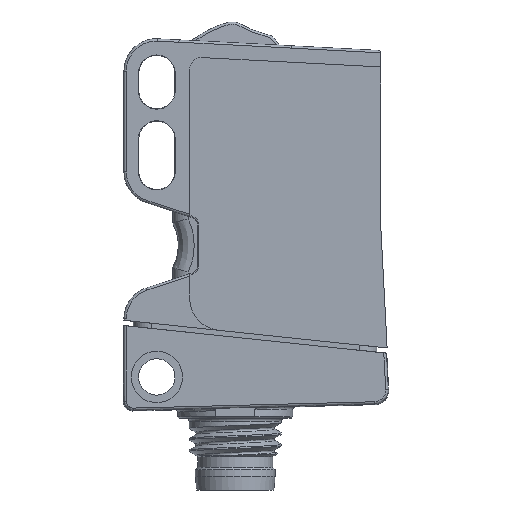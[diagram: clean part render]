
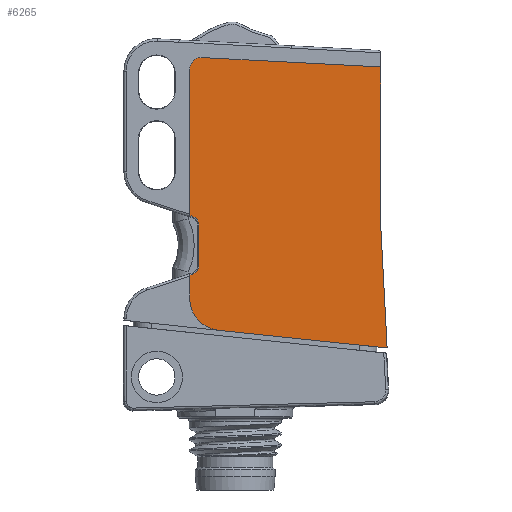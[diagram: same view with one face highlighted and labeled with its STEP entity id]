
A CAD part, front view. The second image highlights one B-rep face of the part: STEP entity #6265.
In plain terms, the highlighted planar face has unit normal (0, -1, 0).
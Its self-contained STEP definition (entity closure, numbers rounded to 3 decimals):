
#656=LINE('',#10432,#1016);
#657=LINE('',#10440,#1017);
#658=LINE('',#10448,#1018);
#659=LINE('',#10450,#1019);
#662=LINE('',#10458,#1022);
#670=LINE('',#10492,#1030);
#683=LINE('',#10538,#1043);
#685=LINE('',#10546,#1045);
#686=LINE('',#10548,#1046);
#1016=VECTOR('',#7796,1000.);
#1017=VECTOR('',#7807,1000.);
#1018=VECTOR('',#7818,1000.);
#1019=VECTOR('',#7821,1000.);
#1022=VECTOR('',#7830,1000.);
#1030=VECTOR('',#7872,1000.);
#1043=VECTOR('',#7921,1000.);
#1045=VECTOR('',#7931,1000.);
#1046=VECTOR('',#7932,1000.);
#1183=PLANE('',#6714);
#2366=ORIENTED_EDGE('',*,*,#3054,.F.);
#2367=ORIENTED_EDGE('',*,*,#3037,.T.);
#2368=ORIENTED_EDGE('',*,*,#3036,.T.);
#2369=ORIENTED_EDGE('',*,*,#3033,.T.);
#2370=ORIENTED_EDGE('',*,*,#3032,.T.);
#2371=ORIENTED_EDGE('',*,*,#3030,.T.);
#2372=ORIENTED_EDGE('',*,*,#3028,.T.);
#2373=ORIENTED_EDGE('',*,*,#3026,.T.);
#2374=ORIENTED_EDGE('',*,*,#3024,.T.);
#2375=ORIENTED_EDGE('',*,*,#3077,.T.);
#2376=ORIENTED_EDGE('',*,*,#3080,.T.);
#2377=ORIENTED_EDGE('',*,*,#3081,.T.);
#2378=ORIENTED_EDGE('',*,*,#3082,.T.);
#3024=EDGE_CURVE('',#3479,#3480,#656,.T.);
#3026=EDGE_CURVE('',#3481,#3479,#3620,.F.);
#3028=EDGE_CURVE('',#3482,#3481,#657,.T.);
#3030=EDGE_CURVE('',#3483,#3482,#3623,.F.);
#3032=EDGE_CURVE('',#3484,#3483,#658,.T.);
#3033=EDGE_CURVE('',#3485,#3484,#659,.T.);
#3036=EDGE_CURVE('',#3486,#3485,#3624,.T.);
#3037=EDGE_CURVE('',#3487,#3486,#662,.T.);
#3054=EDGE_CURVE('',#3487,#3496,#670,.T.);
#3077=EDGE_CURVE('',#3480,#3510,#683,.T.);
#3080=EDGE_CURVE('',#3510,#3512,#3641,.T.);
#3081=EDGE_CURVE('',#3512,#3513,#685,.T.);
#3082=EDGE_CURVE('',#3513,#3496,#686,.T.);
#3479=VERTEX_POINT('',#10429);
#3480=VERTEX_POINT('',#10431);
#3481=VERTEX_POINT('',#10435);
#3482=VERTEX_POINT('',#10439);
#3483=VERTEX_POINT('',#10443);
#3484=VERTEX_POINT('',#10447);
#3485=VERTEX_POINT('',#10451);
#3486=VERTEX_POINT('',#10455);
#3487=VERTEX_POINT('',#10459);
#3496=VERTEX_POINT('',#10493);
#3510=VERTEX_POINT('',#10537);
#3512=VERTEX_POINT('',#10543);
#3513=VERTEX_POINT('',#10547);
#3620=CIRCLE('',#6664,0.8);
#3623=CIRCLE('',#6669,0.8);
#3624=CIRCLE('',#6674,1.);
#3641=CIRCLE('',#6713,2.8);
#3914=EDGE_LOOP('',(#2366,#2367,#2368,#2369,#2370,#2371,#2372,#2373,#2374,
#2375,#2376,#2377,#2378));
#4203=FACE_BOUND('',#3914,.T.);
#6265=ADVANCED_FACE('',(#4203),#1183,.T.);
#6664=AXIS2_PLACEMENT_3D('',#10436,#7801,#7802);
#6669=AXIS2_PLACEMENT_3D('',#10444,#7812,#7813);
#6674=AXIS2_PLACEMENT_3D('',#10456,#7826,#7827);
#6713=AXIS2_PLACEMENT_3D('',#10544,#7927,#7928);
#6714=AXIS2_PLACEMENT_3D('',#10545,#7929,#7930);
#7796=DIRECTION('',(-0.951,0.,-0.309));
#7801=DIRECTION('',(0.,-1.,0.));
#7802=DIRECTION('',(0.,0.,-1.));
#7807=DIRECTION('',(0.,0.,-1.));
#7812=DIRECTION('',(0.,-1.,0.));
#7813=DIRECTION('',(0.,0.,-1.));
#7818=DIRECTION('',(0.951,0.,-0.309));
#7821=DIRECTION('',(0.,0.,-1.));
#7826=DIRECTION('',(0.,-1.,0.));
#7827=DIRECTION('',(0.,0.,-1.));
#7830=DIRECTION('',(-0.999,0.,0.052));
#7872=DIRECTION('',(0.,0.,-1.));
#7921=DIRECTION('',(0.,0.,-1.));
#7927=DIRECTION('',(0.,-1.,0.));
#7928=DIRECTION('',(0.,0.,-1.));
#7929=DIRECTION('',(0.,-1.,0.));
#7930=DIRECTION('',(1.,0.,0.));
#7931=DIRECTION('',(0.995,0.,-0.105));
#7932=DIRECTION('',(-0.052,0.,0.999));
#10429=CARTESIAN_POINT('',(3.097,-6.35,8.898));
#10431=CARTESIAN_POINT('',(2.85,-6.35,8.817));
#10432=CARTESIAN_POINT('',(2.881,-6.35,8.827));
#10435=CARTESIAN_POINT('',(3.65,-6.35,9.659));
#10436=CARTESIAN_POINT('',(2.85,-6.35,9.659));
#10439=CARTESIAN_POINT('',(3.65,-6.35,13.141));
#10440=CARTESIAN_POINT('',(3.65,-6.35,9.659));
#10443=CARTESIAN_POINT('',(3.097,-6.35,13.902));
#10444=CARTESIAN_POINT('',(2.85,-6.35,13.141));
#10447=CARTESIAN_POINT('',(2.85,-6.35,13.983));
#10448=CARTESIAN_POINT('',(3.097,-6.35,13.902));
#10450=CARTESIAN_POINT('',(2.85,-6.35,26.674));
#10451=CARTESIAN_POINT('',(2.85,-6.35,26.674));
#10455=CARTESIAN_POINT('',(3.902,-6.35,27.673));
#10456=CARTESIAN_POINT('',(3.85,-6.35,26.674));
#10458=CARTESIAN_POINT('',(18.682,-6.35,26.898));
#10459=CARTESIAN_POINT('',(19.4,-6.35,26.86));
#10492=CARTESIAN_POINT('',(19.4,-6.35,26.898));
#10493=CARTESIAN_POINT('',(19.4,-6.35,13.196));
#10537=CARTESIAN_POINT('',(2.85,-6.35,6.822));
#10538=CARTESIAN_POINT('',(2.85,-6.35,26.674));
#10543=CARTESIAN_POINT('',(5.357,-6.35,4.037));
#10544=CARTESIAN_POINT('',(5.65,-6.35,6.822));
#10545=CARTESIAN_POINT('',(8.642,-6.35,15.609));
#10546=CARTESIAN_POINT('',(5.357,-6.35,4.037));
#10547=CARTESIAN_POINT('',(19.96,-6.35,2.503));
#10548=CARTESIAN_POINT('',(20.05,-6.35,0.793));
